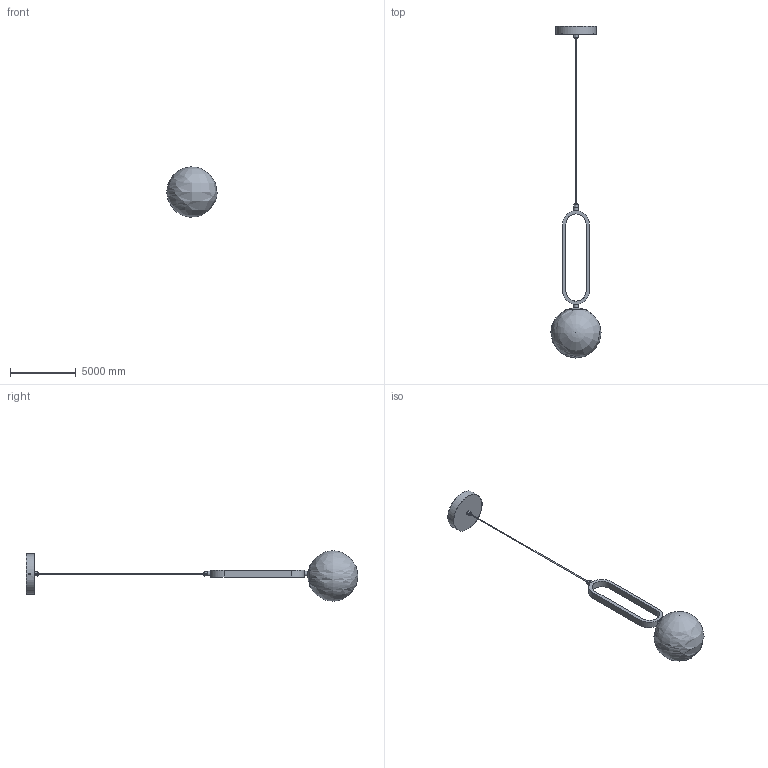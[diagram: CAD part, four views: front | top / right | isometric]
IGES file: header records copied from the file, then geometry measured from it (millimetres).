
Global section: file name: Alabaster Ball Pendant Lamp; native system: AutoCAD 2022 - 简体中文 (Simplified Chinese),62HAuto; preprocessor: desk Translation Framework DWG producer (atf_dwg_producer); organization: unknown; date: 20250927.150312; units: inch
Bounding box: 3809.97 x 25162.54 x 3810 mm (x, y, z)
Volume: 31729137952 mm3; surface area: 113856501.5 mm2
Topology: 13 solids, 13 shells, 129 faces, 324 edges, 228 vertices
Faces by surface type: bspline 129
